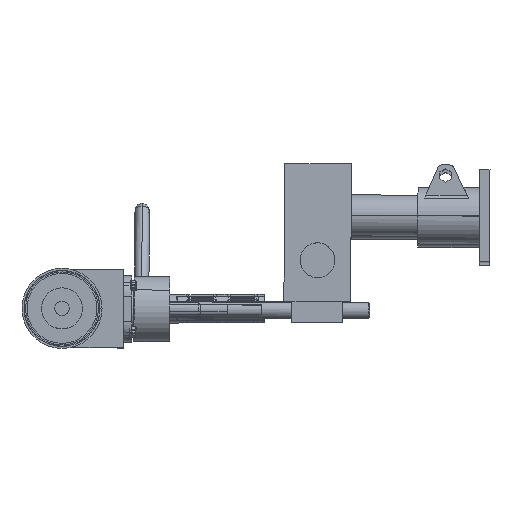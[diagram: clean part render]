
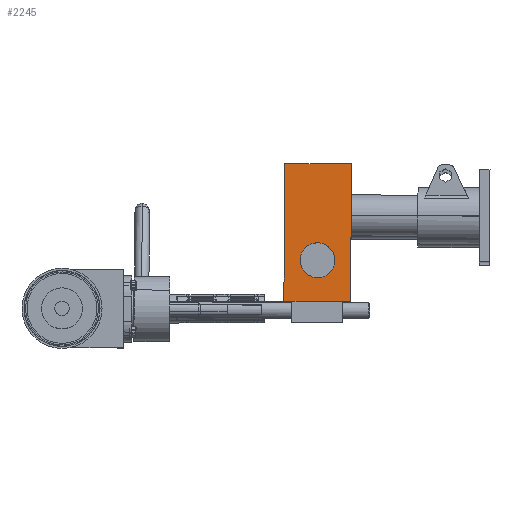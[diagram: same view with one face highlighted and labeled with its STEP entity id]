
A CAD part, top view. The second image highlights one B-rep face of the part: STEP entity #2245.
In plain terms, the highlighted planar face has unit normal (0, 0, 1) as drawn and (0, 1, 0) by its records, which use the part's own axes.
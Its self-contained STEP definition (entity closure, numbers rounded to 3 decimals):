
#145 = VERTEX_POINT ( 'NONE', #328 ) ;
#328 = CARTESIAN_POINT ( 'NONE',  ( 27., 65., -17. ) ) ;
#633 = CARTESIAN_POINT ( 'NONE',  ( -67., 65., 32.5 ) ) ;
#1236 = EDGE_CURVE ( 'NONE', #145, #4055, #2603, .T. ) ;
#1372 = DIRECTION ( 'NONE',  ( 0., 0., -1. ) ) ;
#1739 = CARTESIAN_POINT ( 'NONE',  ( 67., 65., -32.5 ) ) ;
#1796 = FACE_OUTER_BOUND ( 'NONE', #13608, .T. ) ;
#2028 = LINE ( 'NONE', #11838, #10426 ) ;
#2180 = VECTOR ( 'NONE', #16394, 1000. ) ;
#2245 = ADVANCED_FACE ( 'NONE', ( #2300, #1796 ), #21473, .F. ) ;
#2298 = DIRECTION ( 'NONE',  ( 1., 0., 0. ) ) ;
#2300 = FACE_BOUND ( 'NONE', #15771, .T. ) ;
#2426 = DIRECTION ( 'NONE',  ( 0., 0., 1. ) ) ;
#2603 = CIRCLE ( 'NONE', #19156, 17. ) ;
#2750 = AXIS2_PLACEMENT_3D ( 'NONE', #3837, #15555, #5521 ) ;
#3837 = CARTESIAN_POINT ( 'NONE',  ( 27., 65., 0. ) ) ;
#4027 = VERTEX_POINT ( 'NONE', #8868 ) ;
#4055 = VERTEX_POINT ( 'NONE', #5543 ) ;
#5392 = DIRECTION ( 'NONE',  ( 0., 1., 0. ) ) ;
#5521 = DIRECTION ( 'NONE',  ( 0., 0., 1. ) ) ;
#5543 = CARTESIAN_POINT ( 'NONE',  ( 27., 65., 17. ) ) ;
#6643 = LINE ( 'NONE', #19741, #2180 ) ;
#7001 = CARTESIAN_POINT ( 'NONE',  ( -67., 65., -32.5 ) ) ;
#7146 = EDGE_CURVE ( 'NONE', #8395, #4027, #16369, .T. ) ;
#7478 = VECTOR ( 'NONE', #2426, 1000. ) ;
#7620 = VECTOR ( 'NONE', #2298, 1000. ) ;
#8395 = VERTEX_POINT ( 'NONE', #7001 ) ;
#8868 = CARTESIAN_POINT ( 'NONE',  ( -67., 65., 32.5 ) ) ;
#10426 = VECTOR ( 'NONE', #13512, 1000. ) ;
#10679 = AXIS2_PLACEMENT_3D ( 'NONE', #19805, #14711, #1372 ) ;
#11838 = CARTESIAN_POINT ( 'NONE',  ( 67., 65., 32.5 ) ) ;
#12593 = ORIENTED_EDGE ( 'NONE', *, *, #21444, .T. ) ;
#12943 = CIRCLE ( 'NONE', #2750, 17. ) ;
#13512 = DIRECTION ( 'NONE',  ( 0., 0., -1. ) ) ;
#13567 = ORIENTED_EDGE ( 'NONE', *, *, #19377, .T. ) ;
#13596 = EDGE_CURVE ( 'NONE', #4055, #145, #12943, .T. ) ;
#13608 = EDGE_LOOP ( 'NONE', ( #12593, #17533, #15444, #13567 ) ) ;
#14152 = CARTESIAN_POINT ( 'NONE',  ( -67., 65., 32.5 ) ) ;
#14350 = EDGE_CURVE ( 'NONE', #19173, #8395, #6643, .T. ) ;
#14711 = DIRECTION ( 'NONE',  ( 0., -1., 0. ) ) ;
#15417 = CARTESIAN_POINT ( 'NONE',  ( 27., 65., 0. ) ) ;
#15444 = ORIENTED_EDGE ( 'NONE', *, *, #7146, .T. ) ;
#15555 = DIRECTION ( 'NONE',  ( 0., 1., 0. ) ) ;
#15703 = CARTESIAN_POINT ( 'NONE',  ( 67., 65., 32.5 ) ) ;
#15771 = EDGE_LOOP ( 'NONE', ( #20617, #20344 ) ) ;
#16369 = LINE ( 'NONE', #14152, #7478 ) ;
#16394 = DIRECTION ( 'NONE',  ( -1., 0., 0. ) ) ;
#17125 = DIRECTION ( 'NONE',  ( 0., 0., 1. ) ) ;
#17533 = ORIENTED_EDGE ( 'NONE', *, *, #14350, .T. ) ;
#19156 = AXIS2_PLACEMENT_3D ( 'NONE', #15417, #5392, #17125 ) ;
#19173 = VERTEX_POINT ( 'NONE', #1739 ) ;
#19377 = EDGE_CURVE ( 'NONE', #4027, #21678, #20993, .T. ) ;
#19741 = CARTESIAN_POINT ( 'NONE',  ( -67., 65., -32.5 ) ) ;
#19805 = CARTESIAN_POINT ( 'NONE',  ( 0., 65., 0. ) ) ;
#20344 = ORIENTED_EDGE ( 'NONE', *, *, #1236, .F. ) ;
#20617 = ORIENTED_EDGE ( 'NONE', *, *, #13596, .F. ) ;
#20993 = LINE ( 'NONE', #633, #7620 ) ;
#21444 = EDGE_CURVE ( 'NONE', #21678, #19173, #2028, .T. ) ;
#21473 = PLANE ( 'NONE',  #10679 ) ;
#21678 = VERTEX_POINT ( 'NONE', #15703 ) ;
